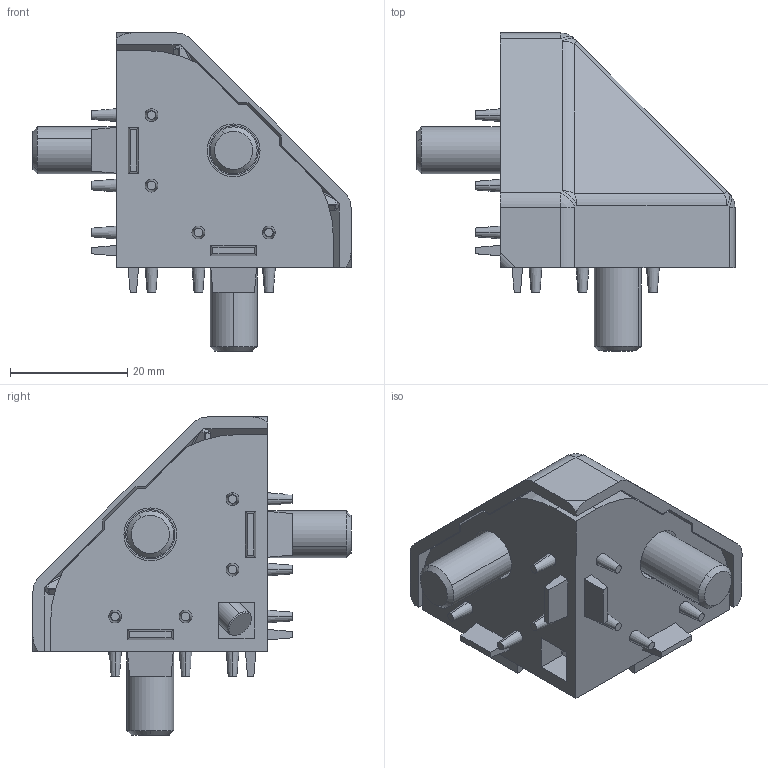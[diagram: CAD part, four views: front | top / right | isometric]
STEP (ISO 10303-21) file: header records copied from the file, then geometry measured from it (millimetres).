
FILE_DESCRIPTION (( 'STEP AP214' ), '1' );
FILE_NAME ('30006-00-0000-00.STEP', '2016-11-21T12:22:04', ( '' ), ( '' ), 'SwSTEP 2.0', 'SolidWorks 2016', '' );
FILE_SCHEMA (( 'AUTOMOTIVE_DESIGN' ));
Length unit declared in the file: millimetre
Products named in the file (5): 30006-00-0000-00; 10487-01-0000-00_sicherungsscheibem8; 10039-01-0000-00; 10227-01-0000-00; 10116-01-0000-00
Assembly tree (8 placements, depth 2):
  30006-00-0000-00
    10116-01-0000-00
    10227-01-0000-00  x3
    10039-01-0000-00
    10487-01-0000-00_sicherungsscheibem8  x3
Bounding box: 54.2 x 54.2 x 54.2 mm (x, y, z)
Volume: 22771.4 mm3; surface area: 16864.7 mm2
Topology: 8 solids, 8 shells, 295 faces, 735 edges, 468 vertices
Faces by surface type: plane 151, cylinder 79, cone 45, bspline 20
Entity records: 9188 total; most frequent: CARTESIAN_POINT 1799, ORIENTED_EDGE 1220, DIRECTION 1189, EDGE_CURVE 610, AXIS2_PLACEMENT_3D 405, VERTEX_POINT 392, LINE 379, VECTOR 379
